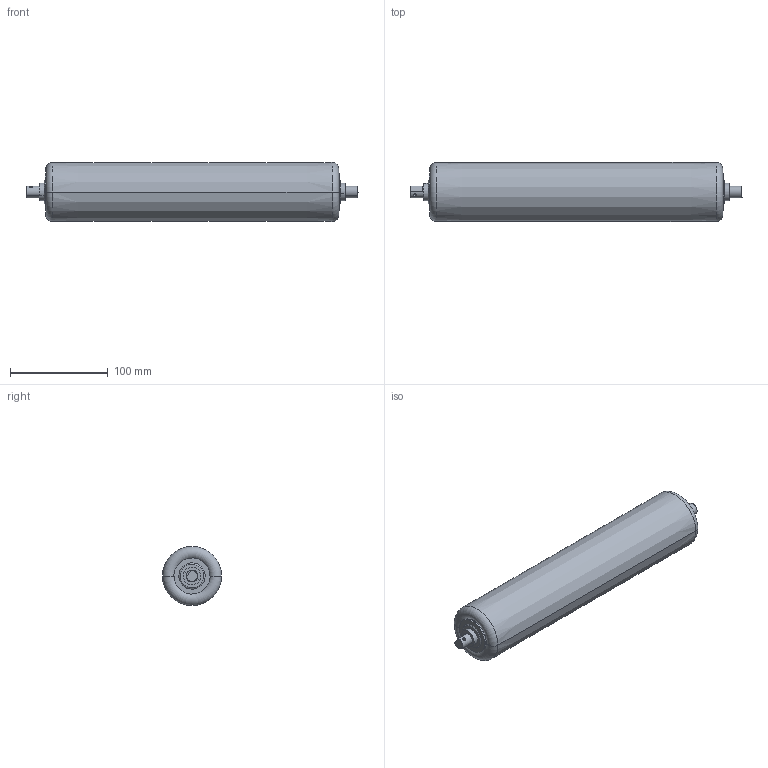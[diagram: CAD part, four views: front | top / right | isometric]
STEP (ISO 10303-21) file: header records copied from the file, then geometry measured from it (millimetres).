
FILE_DESCRIPTION (( 'STEP AP203' ), '1' );
FILE_NAME ('HR-6023P.STEP', '2022-03-25T02:47:18', ( 'Microsoft' ), ( 'Microsoft' ), 'SwSTEP 2.0', 'SolidWorks 2020', '' );
FILE_SCHEMA (( 'CONFIG_CONTROL_DESIGN' ));
Length unit declared in the file: millimetre
Products named in the file (4): HR-6023P-芠极; HR-6023P; HR-6023P-粣; HR-6023P-粣創
Assembly tree (4 placements, depth 2):
  HR-6023P
    HR-6023P-芠极
    HR-6023P-粣
    HR-6023P-粣創  x2
Bounding box: 340 x 60.5 x 60.5 mm (x, y, z)
Volume: 190861.7 mm3; surface area: 141201.6 mm2
Topology: 4 solids, 6 shells, 109 faces, 221 edges, 128 vertices
Faces by surface type: cylinder 36, cone 31, torus 24, plane 18
Entity records: 2550 total; most frequent: CARTESIAN_POINT 436, DIRECTION 416, ORIENTED_EDGE 310, AXIS2_PLACEMENT_3D 184, EDGE_CURVE 155, CIRCLE 101, VERTEX_POINT 88, EDGE_LOOP 85
